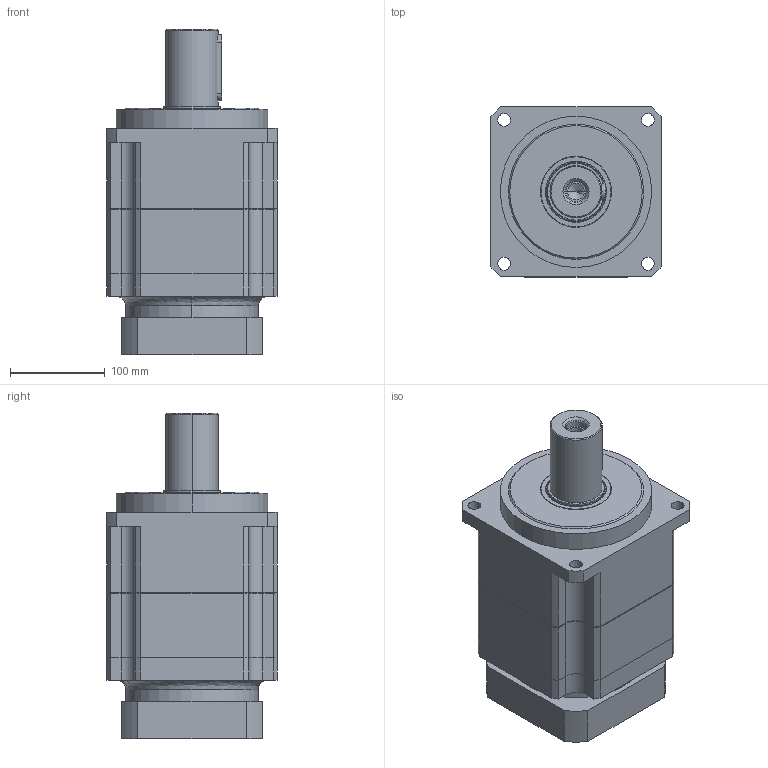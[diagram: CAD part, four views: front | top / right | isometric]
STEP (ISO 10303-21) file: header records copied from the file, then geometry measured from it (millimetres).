
FILE_DESCRIPTION (( 'STEP AP203' ), '1' );
FILE_NAME ('PAG180-L2-40-22-110-145.STEP', '2023-07-05T03:39:30', ( 'Windows User' ), ( 'P R C' ), 'SwSTEP 2.0', 'SolidWorks 2016', '' );
FILE_SCHEMA (( 'CONFIG_CONTROL_DESIGN' ));
Length unit declared in the file: millimetre
Products named in the file (8): PAG180齿圈转架; PAG180二级齿圈; PAG180薊粣ん-22; PAG180 一级连接板 130匡 110x5 145xM8 40L 特殊连接板_D4-114.3 D7-200 D8-M12 A2-180 L5-10 L6-83(45+38) R-117 标准; 邧埴瑩 16x10x70_1; TC60-75-9_TC-34.9-55-7; 内六角圆柱头螺钉M10×35; PAG180-L2-40-22-110-145
Assembly tree (7 placements, depth 2):
  PAG180-L2-40-22-110-145
    PAG180齿圈转架
    PAG180二级齿圈
    PAG180薊粣ん-22
    PAG180 一级连接板 130匡 110x5 145xM8 40L 特殊连接板_D4-114.3 D7-200 D8-M12 A2-180 L5-10 L6-83(45+38) R-117 标准
    邧埴瑩 16x10x70_1
    TC60-75-9_TC-34.9-55-7
    内六角圆柱头螺钉M10×35
Bounding box: 180 x 180 x 344.5 mm (x, y, z)
Volume: 6563380.1 mm3; surface area: 481612.2 mm2
Topology: 7 solids, 7 shells, 1032 faces, 2704 edges, 1762 vertices
Faces by surface type: plane 602, cylinder 190, bspline 178, cone 62
Entity records: 40493 total; most frequent: CARTESIAN_POINT 15099, ORIENTED_EDGE 5348, DIRECTION 4515, EDGE_CURVE 2674, VECTOR 1851, LINE 1851, VERTEX_POINT 1762, AXIS2_PLACEMENT_3D 1332
